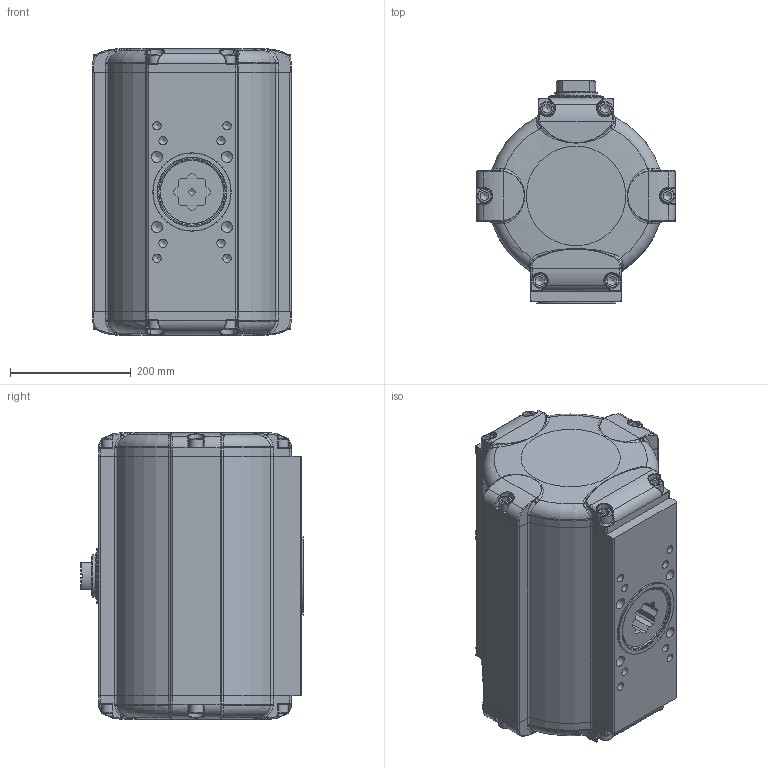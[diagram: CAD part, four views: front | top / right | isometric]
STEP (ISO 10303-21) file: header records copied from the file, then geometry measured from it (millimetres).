
FILE_DESCRIPTION((''),'2;1');
FILE_NAME('Z:\DOKUMENTATION ANTRIEBSPROGRAMM\Antriebe (neu)\BR16_SAD_SAF_90°\STEP-Dateien\45\SAD_45_BR16.stp','2017-06-27T09:11:13',('vmi'),(''),'Autodesk Inventor 2013','Autodesk Inventor 2013','');
FILE_SCHEMA(('AUTOMOTIVE_DESIGN { 1 0 10303 214 1 1 1 1 }'));
Length unit declared in the file: millimetre
Products named in the file (1): ENG-084103_Shrinkwrap_1
Bounding box: 330 x 370 x 475 mm (x, y, z)
Surface area: 932354.6 mm2 (no closed solid volume)
Topology: 0 solids, 29 shells, 609 faces, 1889 edges, 1257 vertices
Faces by surface type: plane 215, bspline 160, cylinder 151, cone 44, torus 39
Full cylindrical faces by diameter (mm): 4.134 x4, 4.917 x5, 10.106 x2, 13.835 x8, 18.376 x4, 18.631 x2, 24 x12, 65 x1, 69.8 x1, 90 x1, 114 x1, 130 x1, 266 x1
Entity records: 33084 total; most frequent: CARTESIAN_POINT 17578, ORIENTED_EDGE 2940, DIRECTION 2701, EDGE_CURVE 1751, VERTEX_POINT 1214, AXIS2_PLACEMENT_3D 1069, EDGE_LOOP 763, FACE_OUTER_BOUND 609
